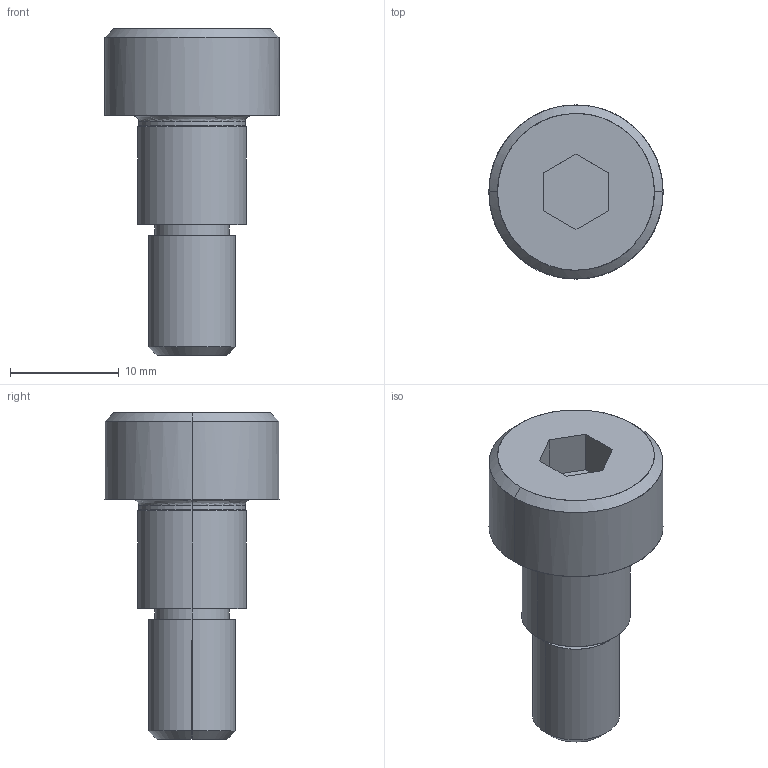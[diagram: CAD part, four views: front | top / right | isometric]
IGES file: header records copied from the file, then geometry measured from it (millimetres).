
Global section: file name: E:\UnigraphicsGraphicData\MISUMI_PRESS-PARTS\IGES\3d_msb10-10_00571_r00.igs; native system: NX V5.0; preprocessor: UGS NX IGES V5.0; author: MISUMI; date: 20110105.161513; units: millimetre
Bounding box: 16 x 16 x 30 mm (x, y, z)
Surface area: 1488.8 mm2 (no closed solid volume)
Topology: 0 solids, 0 shells, 30 faces, 172 edges, 172 vertices
Faces by surface type: bspline 30
